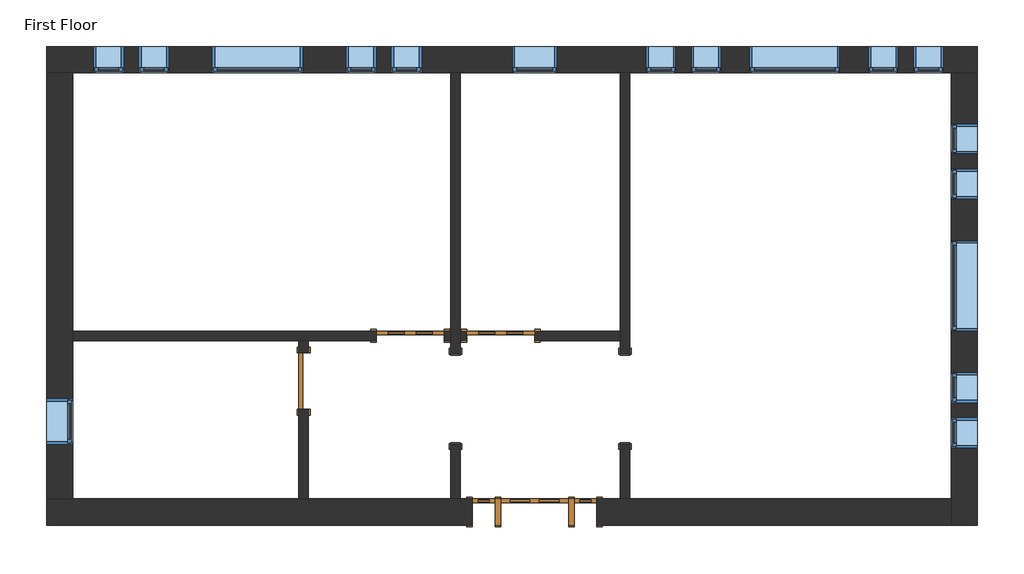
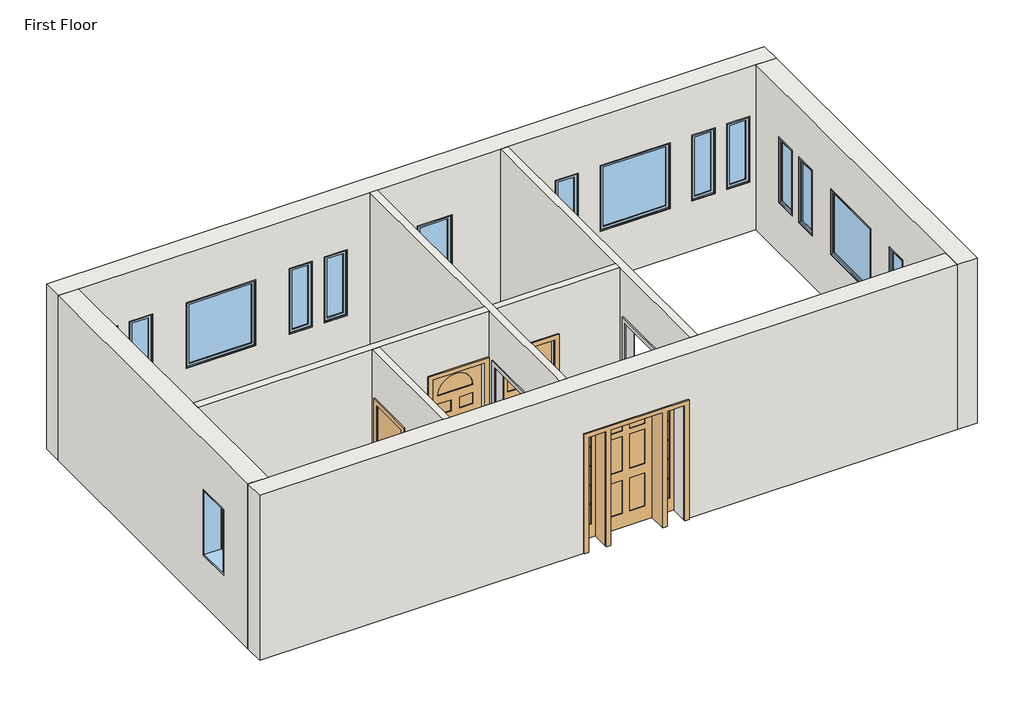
# One storey: 17 windows, 9 walls, 4 doors, 2 proxies.
"""IFC4 building model written with IfcOpenShell, lengths in millimetres."""

from ifc_helpers import new_model, si_unit, frame, origin, place, context, project, spatial, polyline, outline, extrude, faceted_brep, transform, mapped, element, save
from components import proxy_f44482cc, door_829da954, door_2e3b4da2, door_4d6c7550, door_dba5aa2e, window_da97879f, window_d61ef850, window_60baf983, window_6eb97611

model = new_model("IFC4")

# Units and contexts
model_context = context("Model", 3, world=origin())
ifc_project = project(units=[si_unit("LENGTHUNIT", "METRE", prefix="MILLI")], contexts=[model_context])

# Site, building, storey
site = spatial("IfcSite", under=ifc_project)
building = spatial("IfcBuilding", under=site)
storey = spatial("IfcBuildingStorey", under=building, Name="First Floor", Elevation=0.0)

# Proxies
placement = place(None, origin())
proxy_shape = proxy_f44482cc(model_context)
element("IfcBuildingElementProxy", 1, Name="Opening-Cased : 48\" x 84\"", ObjectType="Opening-Cased : 48\" x 84\"", at=placement, inside=storey, context=model_context, shape_type="MappedRepresentation", body=[
    mapped(proxy_shape, transform((-3773.4589563, 5882.4203434, 0.0), x_axis=(0.0, 1.0, 0.0), y_axis=(-1.0, 0.0, 0.0), z_axis=(0.0, 0.0, 1.0))),
])
element("IfcBuildingElementProxy", 2, Name="Opening-Cased : 48\" x 84\"", ObjectType="Opening-Cased : 48\" x 84\"", at=placement, inside=storey, context=model_context, shape_type="MappedRepresentation", body=[
    mapped(proxy_shape, transform((-6059.4589563, 5866.04303, 0.0), x_axis=(0.0, -1.0, 0.0), y_axis=(1.0, 0.0, 0.0), z_axis=(0.0, 0.0, 1.0))),
])

# Doors
door_shape = door_829da954(model_context)
element("IfcDoor", 3, ObjectType="Single-Decorative 2 : 36\" x 84\"", at=placement, inside=storey, context=model_context, shape_type="MappedRepresentation", body=[
    mapped(door_shape, transform((-5449.8589563, 6723.5441867, 0.0), x_axis=(-1.0, 0.0, 0.0), y_axis=(0.0, -1.0, 0.0), z_axis=(0.0, 0.0, 1.0))),
])
door_2_shape = door_2e3b4da2(model_context)
element("IfcDoor", 4, ObjectType="Single-Decorative 2 : 36\" x 84\"", at=placement, inside=storey, context=model_context, shape_type="MappedRepresentation", body=[
    mapped(door_2_shape, transform((-6669.0589563, 6723.5441867, 0.0), x_axis=(1.0, 0.0, 0.0), y_axis=(0.0, 1.0, 0.0), z_axis=(0.0, 0.0, 1.0))),
])
door_3_shape = door_4d6c7550(model_context)
element("IfcDoor", 5, ObjectType="Single-Flush : 30\" x 84\"", at=placement, inside=storey, context=model_context, shape_type="MappedRepresentation", body=[
    mapped(door_3_shape, transform((-8105.7464563, 6113.9441867, 0.0), x_axis=(0.0, 1.0, 0.0), y_axis=(-1.0, 0.0, 0.0), z_axis=(0.0, 0.0, 1.0))),
])
door_4_shape = door_dba5aa2e(model_context)
element("IfcDoor", 6, ObjectType="Single-Raised Panel with Sidelights : 36\" x 84\"", at=placement, inside=storey, context=model_context, shape_type="MappedRepresentation", body=[
    mapped(door_4_shape, transform((-4992.6589563, 4350.2316867, 0.0), x_axis=(-1.0, 0.0, 0.0), y_axis=(0.0, -1.0, 0.0), z_axis=(0.0, 0.0, 1.0))),
])

# Walls
element("IfcWall", 7, ObjectType="Exterior - Brick on Mtl. Stud", at=placement, inside=storey, context=model_context, shape_type="Brep", body=[
    faceted_brep([(974.7535437, 10270.0191867, 0.0), (622.3285437, 10270.0191867, 0.0), (-3709.9589563, 10270.0191867, 0.0), (-3836.9589563, 10270.0191867, 0.0), (-5995.9589563, 10270.0191867, 0.0), (-6122.9589563, 10270.0191867, 0.0), (-11217.2464563, 10270.0191867, 0.0), (-11569.6714563, 10270.0191867, 0.0), (-11569.6714563, 10622.4441867, 0.0), (974.7535437, 10622.4441867, 0.0), (-11569.6714563, 10270.0191867, 3048.0), (-11217.2464563, 10270.0191867, 3048.0), (-6122.9589563, 10270.0191867, 3048.0), (-5995.9589563, 10270.0191867, 3048.0), (-3836.9589563, 10270.0191867, 3048.0), (-3709.9589563, 10270.0191867, 3048.0), (622.3285437, 10270.0191867, 3048.0), (974.7535437, 10270.0191867, 3048.0), (974.7535437, 10622.4441867, 3048.0), (-11569.6714563, 10622.4441867, 3048.0), (-90.4589563, 10270.0191867, 2133.6), (-90.4589563, 10270.0191867, 914.4), (-496.8589563, 10270.0191867, 914.4), (-496.8589563, 10270.0191867, 2133.6), (519.1410437, 10270.0191867, 2133.6), (519.1410437, 10270.0191867, 914.4), (112.7410437, 10270.0191867, 914.4), (112.7410437, 10270.0191867, 2133.6), (-2884.4589563, 10270.0191867, 2133.6), (-2478.0589563, 10270.0191867, 2133.6), (-2478.0589563, 10270.0191867, 914.4), (-2884.4589563, 10270.0191867, 914.4), (-3494.0589563, 10270.0191867, 2133.6), (-3087.6589563, 10270.0191867, 2133.6), (-3087.6589563, 10270.0191867, 914.4), (-3494.0589563, 10270.0191867, 914.4), (-7126.2589563, 10270.0191867, 2133.6), (-7126.2589563, 10270.0191867, 914.4), (-7532.6589563, 10270.0191867, 914.4), (-7532.6589563, 10270.0191867, 2133.6), (-6516.6589563, 10270.0191867, 2133.6), (-6516.6589563, 10270.0191867, 914.4), (-6923.0589563, 10270.0191867, 914.4), (-6923.0589563, 10270.0191867, 2133.6), (-10326.6589563, 10270.0191867, 2133.6), (-9920.2589563, 10270.0191867, 2133.6), (-9920.2589563, 10270.0191867, 914.4), (-10326.6589563, 10270.0191867, 914.4), (-10936.2589563, 10270.0191867, 2133.6), (-10529.8589563, 10270.0191867, 2133.6), (-10529.8589563, 10270.0191867, 914.4), (-10936.2589563, 10270.0191867, 914.4), (-2097.0589563, 10270.0191867, 2133.6), (-877.8589563, 10270.0191867, 2133.6), (-877.8589563, 10270.0191867, 914.4), (-2097.0589563, 10270.0191867, 914.4), (-9336.0589563, 10270.0191867, 2133.6), (-8116.8589563, 10270.0191867, 2133.6), (-8116.8589563, 10270.0191867, 914.4), (-9336.0589563, 10270.0191867, 914.4), (-5297.4589563, 10270.0191867, 2133.6), (-4687.8589563, 10270.0191867, 2133.6), (-4687.8589563, 10270.0191867, 914.4), (-5297.4589563, 10270.0191867, 914.4), (-90.4589563, 10622.4441867, 2133.6), (-496.8589563, 10622.4441867, 2133.6), (-496.8589563, 10622.4441867, 914.4), (-90.4589563, 10622.4441867, 914.4), (519.1410437, 10622.4441867, 2133.6), (112.7410437, 10622.4441867, 2133.6), (112.7410437, 10622.4441867, 914.4), (519.1410437, 10622.4441867, 914.4), (-2884.4589563, 10622.4441867, 2133.6), (-2884.4589563, 10622.4441867, 914.4), (-2478.0589563, 10622.4441867, 914.4), (-2478.0589563, 10622.4441867, 2133.6), (-3494.0589563, 10622.4441867, 2133.6), (-3494.0589563, 10622.4441867, 914.4), (-3087.6589563, 10622.4441867, 914.4), (-3087.6589563, 10622.4441867, 2133.6), (-7126.2589563, 10622.4441867, 2133.6), (-7532.6589563, 10622.4441867, 2133.6), (-7532.6589563, 10622.4441867, 914.4), (-7126.2589563, 10622.4441867, 914.4), (-6516.6589563, 10622.4441867, 2133.6), (-6923.0589563, 10622.4441867, 2133.6), (-6923.0589563, 10622.4441867, 914.4), (-6516.6589563, 10622.4441867, 914.4), (-10326.6589563, 10622.4441867, 2133.6), (-10326.6589563, 10622.4441867, 914.4), (-9920.2589563, 10622.4441867, 914.4), (-9920.2589563, 10622.4441867, 2133.6), (-10936.2589563, 10622.4441867, 2133.6), (-10936.2589563, 10622.4441867, 914.4), (-10529.8589563, 10622.4441867, 914.4), (-10529.8589563, 10622.4441867, 2133.6), (-2097.0589563, 10622.4441867, 2133.6), (-2097.0589563, 10622.4441867, 914.4), (-877.8589563, 10622.4441867, 914.4), (-877.8589563, 10622.4441867, 2133.6), (-9336.0589563, 10622.4441867, 2133.6), (-9336.0589563, 10622.4441867, 914.4), (-8116.8589563, 10622.4441867, 914.4), (-8116.8589563, 10622.4441867, 2133.6), (-5297.4589563, 10622.4441867, 2133.6), (-5297.4589563, 10622.4441867, 914.4), (-4687.8589563, 10622.4441867, 914.4), (-4687.8589563, 10622.4441867, 2133.6)], [[[0, 1, 2, 3, 4, 5, 6, 7, 8, 9]], [[10, 11, 12, 13, 14, 15, 16, 17, 18, 19]], [[7, 6, 5, 4, 3, 2, 1, 0, 17, 16, 15, 14, 13, 12, 11, 10], [20, 21, 22, 23], [24, 25, 26, 27], [28, 29, 30, 31], [32, 33, 34, 35], [36, 37, 38, 39], [40, 41, 42, 43], [44, 45, 46, 47], [48, 49, 50, 51], [52, 53, 54, 55], [56, 57, 58, 59], [60, 61, 62, 63]], [[8, 19, 18, 9], [64, 65, 66, 67], [68, 69, 70, 71], [72, 73, 74, 75], [76, 77, 78, 79], [80, 81, 82, 83], [84, 85, 86, 87], [88, 89, 90, 91], [92, 93, 94, 95], [96, 97, 98, 99], [100, 101, 102, 103], [104, 105, 106, 107]], [[17, 0, 9, 18]], [[7, 10, 19, 8]], [[21, 20, 64, 67]], [[22, 21, 67, 66]], [[23, 22, 66, 65]], [[20, 23, 65, 64]], [[25, 24, 68, 71]], [[26, 25, 71, 70]], [[27, 26, 70, 69]], [[24, 27, 69, 68]], [[73, 72, 28, 31]], [[74, 73, 31, 30]], [[75, 74, 30, 29]], [[72, 75, 29, 28]], [[77, 76, 32, 35]], [[78, 77, 35, 34]], [[79, 78, 34, 33]], [[76, 79, 33, 32]], [[37, 36, 80, 83]], [[38, 37, 83, 82]], [[39, 38, 82, 81]], [[36, 39, 81, 80]], [[41, 40, 84, 87]], [[42, 41, 87, 86]], [[43, 42, 86, 85]], [[40, 43, 85, 84]], [[89, 88, 44, 47]], [[90, 89, 47, 46]], [[91, 90, 46, 45]], [[88, 91, 45, 44]], [[93, 92, 48, 51]], [[94, 93, 51, 50]], [[95, 94, 50, 49]], [[92, 95, 49, 48]], [[97, 96, 52, 55]], [[98, 97, 55, 54]], [[99, 98, 54, 53]], [[96, 99, 53, 52]], [[101, 100, 56, 59]], [[102, 101, 59, 58]], [[103, 102, 58, 57]], [[100, 103, 57, 56]], [[105, 104, 60, 63]], [[106, 105, 63, 62]], [[107, 106, 62, 61]], [[104, 107, 61, 60]]]),
])
element("IfcWall", 8, ObjectType="Exterior - Brick on Mtl. Stud", at=placement, inside=storey, context=model_context, shape_type="Brep", body=[
    faceted_brep([(622.3285437, 4174.0191867, 0.0), (622.3285437, 4526.4441867, 0.0), (622.3285437, 10270.0191867, 0.0), (974.7535437, 10270.0191867, 0.0), (974.7535437, 4174.0191867, 0.0), (622.3285437, 10270.0191867, 3048.0), (622.3285437, 4526.4441867, 3048.0), (622.3285437, 4174.0191867, 3048.0), (974.7535437, 4174.0191867, 3048.0), (974.7535437, 10270.0191867, 3048.0), (622.3285437, 5823.4316867, 2133.6), (622.3285437, 5823.4316867, 914.4), (622.3285437, 6229.8316867, 914.4), (622.3285437, 6229.8316867, 2133.6), (622.3285437, 5213.8316867, 2133.6), (622.3285437, 5213.8316867, 914.4), (622.3285437, 5620.2316867, 914.4), (622.3285437, 5620.2316867, 2133.6), (622.3285437, 8973.0316867, 2133.6), (622.3285437, 8566.6316867, 2133.6), (622.3285437, 8566.6316867, 914.4), (622.3285437, 8973.0316867, 914.4), (622.3285437, 9582.6316867, 2133.6), (622.3285437, 9176.2316867, 2133.6), (622.3285437, 9176.2316867, 914.4), (622.3285437, 9582.6316867, 914.4), (622.3285437, 8007.8316867, 2133.6), (622.3285437, 6788.6316867, 2133.6), (622.3285437, 6788.6316867, 914.4), (622.3285437, 8007.8316867, 914.4), (974.7535437, 5823.4316867, 2133.6), (974.7535437, 6229.8316867, 2133.6), (974.7535437, 6229.8316867, 914.4), (974.7535437, 5823.4316867, 914.4), (974.7535437, 5213.8316867, 2133.6), (974.7535437, 5620.2316867, 2133.6), (974.7535437, 5620.2316867, 914.4), (974.7535437, 5213.8316867, 914.4), (974.7535437, 8973.0316867, 2133.6), (974.7535437, 8973.0316867, 914.4), (974.7535437, 8566.6316867, 914.4), (974.7535437, 8566.6316867, 2133.6), (974.7535437, 9582.6316867, 2133.6), (974.7535437, 9582.6316867, 914.4), (974.7535437, 9176.2316867, 914.4), (974.7535437, 9176.2316867, 2133.6), (974.7535437, 8007.8316867, 2133.6), (974.7535437, 8007.8316867, 914.4), (974.7535437, 6788.6316867, 914.4), (974.7535437, 6788.6316867, 2133.6)], [[[0, 1, 2, 3, 4]], [[5, 6, 7, 8, 9]], [[2, 1, 0, 7, 6, 5], [10, 11, 12, 13], [14, 15, 16, 17], [18, 19, 20, 21], [22, 23, 24, 25], [26, 27, 28, 29]], [[3, 9, 8, 4], [30, 31, 32, 33], [34, 35, 36, 37], [38, 39, 40, 41], [42, 43, 44, 45], [46, 47, 48, 49]], [[2, 5, 9, 3]], [[7, 0, 4, 8]], [[11, 10, 30, 33]], [[12, 11, 33, 32]], [[13, 12, 32, 31]], [[10, 13, 31, 30]], [[15, 14, 34, 37]], [[16, 15, 37, 36]], [[17, 16, 36, 35]], [[14, 17, 35, 34]], [[39, 38, 18, 21]], [[40, 39, 21, 20]], [[41, 40, 20, 19]], [[38, 41, 19, 18]], [[43, 42, 22, 25]], [[44, 43, 25, 24]], [[45, 44, 24, 23]], [[42, 45, 23, 22]], [[47, 46, 26, 29]], [[48, 47, 29, 28]], [[49, 48, 28, 27]], [[46, 49, 27, 26]]]),
])
element("IfcWall", 9, ObjectType="Exterior - Brick on Mtl. Stud", at=placement, inside=storey, context=model_context, shape_type="Brep", body=[
    faceted_brep([(-11569.6714563, 4526.4441867, 0.0), (-11217.2464563, 4526.4441867, 0.0), (-8169.2464563, 4526.4441867, 0.0), (-8042.2464563, 4526.4441867, 0.0), (-6122.9589563, 4526.4441867, 0.0), (-5995.9589563, 4526.4441867, 0.0), (-5830.8589563, 4526.4441867, 0.0), (-5830.8589563, 4174.0191867, 0.0), (-11569.6714563, 4174.0191867, 0.0), (-4154.4589563, 4526.4441867, 0.0), (-3836.9589563, 4526.4441867, 0.0), (-3709.9589563, 4526.4441867, 0.0), (622.3285437, 4526.4441867, 0.0), (622.3285437, 4174.0191867, 0.0), (-4154.4589563, 4174.0191867, 0.0), (622.3285437, 4526.4441867, 3048.0), (-3709.9589563, 4526.4441867, 3048.0), (-3836.9589563, 4526.4441867, 3048.0), (-5995.9589563, 4526.4441867, 3048.0), (-6122.9589563, 4526.4441867, 3048.0), (-8042.2464563, 4526.4441867, 3048.0), (-8169.2464563, 4526.4441867, 3048.0), (-11217.2464563, 4526.4441867, 3048.0), (-11569.6714563, 4526.4441867, 3048.0), (-11569.6714563, 4174.0191867, 3048.0), (622.3285437, 4174.0191867, 3048.0), (-5830.8589563, 4526.4441867, 2133.6), (-4154.4589563, 4526.4441867, 2133.6), (-5830.8589563, 4174.0191867, 2133.6), (-4154.4589563, 4174.0191867, 2133.6)], [[[0, 1, 2, 3, 4, 5, 6, 7, 8]], [[9, 10, 11, 12, 13, 14]], [[15, 16, 17, 18, 19, 20, 21, 22, 23, 24, 25]], [[26, 6, 5, 4, 3, 2, 1, 0, 23, 22, 21, 20, 19, 18, 17, 16, 15, 12, 11, 10, 9, 27]], [[8, 7, 28, 29, 14, 13, 25, 24]], [[12, 15, 25, 13]], [[23, 0, 8, 24]], [[28, 7, 6, 26]], [[29, 28, 26, 27]], [[14, 29, 27, 9]]]),
])
element("IfcWall", 10, ObjectType="Exterior - Brick on Mtl. Stud", at=placement, inside=storey, context=model_context, shape_type="Brep", body=[
    faceted_brep([(-11217.2464563, 10270.0191867, 0.0), (-11217.2464563, 6787.0441867, 0.0), (-11217.2464563, 6660.0441867, 0.0), (-11217.2464563, 4526.4441867, 0.0), (-11569.6714563, 4526.4441867, 0.0), (-11569.6714563, 10270.0191867, 0.0), (-11217.2464563, 4526.4441867, 3048.0), (-11217.2464563, 6660.0441867, 3048.0), (-11217.2464563, 6787.0441867, 3048.0), (-11217.2464563, 10270.0191867, 3048.0), (-11569.6714563, 10270.0191867, 3048.0), (-11569.6714563, 4526.4441867, 3048.0), (-11217.2464563, 5264.6316867, 2133.6), (-11217.2464563, 5874.2316867, 2133.6), (-11217.2464563, 5874.2316867, 914.4), (-11217.2464563, 5264.6316867, 914.4), (-11569.6714563, 5264.6316867, 2133.6), (-11569.6714563, 5264.6316867, 914.4), (-11569.6714563, 5874.2316867, 914.4), (-11569.6714563, 5874.2316867, 2133.6)], [[[0, 1, 2, 3, 4, 5]], [[6, 7, 8, 9, 10, 11]], [[3, 2, 1, 0, 9, 8, 7, 6], [12, 13, 14, 15]], [[4, 11, 10, 5], [16, 17, 18, 19]], [[3, 6, 11, 4]], [[9, 0, 5, 10]], [[17, 16, 12, 15]], [[18, 17, 15, 14]], [[19, 18, 14, 13]], [[16, 19, 13, 12]]]),
])
element("IfcWall", 11, ObjectType="Interior - 5\" Partition (2-hr)", at=placement, inside=storey, context=model_context, shape_type="Brep", body=[
    faceted_brep([(-3709.9589563, 10270.0191867, 0.0), (-3709.9589563, 6483.8316867, 0.0), (-3836.9589563, 6483.8316867, 0.0), (-3836.9589563, 6660.0441867, 0.0), (-3836.9589563, 6787.0441867, 0.0), (-3836.9589563, 10270.0191867, 0.0), (-3709.9589563, 5264.6316867, 0.0), (-3709.9589563, 4526.4441867, 0.0), (-3836.9589563, 4526.4441867, 0.0), (-3836.9589563, 5264.6316867, 0.0), (-3836.9589563, 10270.0191867, 3048.0), (-3836.9589563, 6787.0441867, 3048.0), (-3836.9589563, 6660.0441867, 3048.0), (-3836.9589563, 4526.4441867, 3048.0), (-3709.9589563, 4526.4441867, 3048.0), (-3709.9589563, 10270.0191867, 3048.0), (-3836.9589563, 6483.8316867, 2133.6), (-3836.9589563, 5264.6316867, 2133.6), (-3709.9589563, 6483.8316867, 2133.6), (-3709.9589563, 5264.6316867, 2133.6)], [[[0, 1, 2, 3, 4, 5]], [[6, 7, 8, 9]], [[10, 11, 12, 13, 14, 15]], [[5, 4, 3, 2, 16, 17, 9, 8, 13, 12, 11, 10]], [[18, 1, 0, 15, 14, 7, 6, 19]], [[5, 10, 15, 0]], [[13, 8, 7, 14]], [[9, 17, 19, 6]], [[16, 2, 1, 18]], [[17, 16, 18, 19]]]),
])
element("IfcWall", 12, ObjectType="Interior - 5\" Partition (2-hr)", at=placement, inside=storey, context=model_context, shape_type="Brep", body=[
    faceted_brep([(-6122.9589563, 4526.4441867, 0.0), (-6122.9589563, 5264.6316867, 0.0), (-5995.9589563, 5264.6316867, 0.0), (-5995.9589563, 4526.4441867, 0.0), (-6122.9589563, 6483.8316867, 0.0), (-6122.9589563, 6660.0441867, 0.0), (-6122.9589563, 6787.0441867, 0.0), (-6122.9589563, 10270.0191867, 0.0), (-5995.9589563, 10270.0191867, 0.0), (-5995.9589563, 6787.0441867, 0.0), (-5995.9589563, 6660.0441867, 0.0), (-5995.9589563, 6483.8316867, 0.0), (-6122.9589563, 10270.0191867, 3048.0), (-6122.9589563, 6787.0441867, 3048.0), (-6122.9589563, 6660.0441867, 3048.0), (-6122.9589563, 4526.4441867, 3048.0), (-5995.9589563, 4526.4441867, 3048.0), (-5995.9589563, 6660.0441867, 3048.0), (-5995.9589563, 6787.0441867, 3048.0), (-5995.9589563, 10270.0191867, 3048.0), (-6122.9589563, 5264.6316867, 2133.6), (-6122.9589563, 6483.8316867, 2133.6), (-5995.9589563, 5264.6316867, 2133.6), (-5995.9589563, 6483.8316867, 2133.6)], [[[0, 1, 2, 3]], [[4, 5, 6, 7, 8, 9, 10, 11]], [[12, 13, 14, 15, 16, 17, 18, 19]], [[20, 1, 0, 15, 14, 13, 12, 7, 6, 5, 4, 21]], [[3, 2, 22, 23, 11, 10, 9, 8, 19, 18, 17, 16]], [[7, 12, 19, 8]], [[15, 0, 3, 16]], [[11, 23, 21, 4]], [[22, 2, 1, 20]], [[23, 22, 20, 21]]]),
])
element("IfcWall", 13, ObjectType="Interior - 5\" Partition (2-hr)", at=placement, inside=storey, context=model_context, shape_type="Brep", body=[
    faceted_brep([(-6122.9589563, 6660.0441867, 0.0), (-6211.8589563, 6660.0441867, 0.0), (-6211.8589563, 6787.0441867, 0.0), (-6122.9589563, 6787.0441867, 0.0), (-7126.2589563, 6660.0441867, 0.0), (-8042.2464563, 6660.0441867, 0.0), (-8169.2464563, 6660.0441867, 0.0), (-11217.2464563, 6660.0441867, 0.0), (-11217.2464563, 6787.0441867, 0.0), (-7126.2589563, 6787.0441867, 0.0), (-11217.2464563, 6660.0441867, 3048.0), (-8169.2464563, 6660.0441867, 3048.0), (-8042.2464563, 6660.0441867, 3048.0), (-6122.9589563, 6660.0441867, 3048.0), (-6122.9589563, 6787.0441867, 3048.0), (-11217.2464563, 6787.0441867, 3048.0), (-6211.8589563, 6660.0441867, 2133.6), (-7126.2589563, 6660.0441867, 2133.6), (-6211.8589563, 6787.0441867, 2133.6), (-7126.2589563, 6787.0441867, 2133.6)], [[[0, 1, 2, 3]], [[4, 5, 6, 7, 8, 9]], [[10, 11, 12, 13, 14, 15]], [[16, 1, 0, 13, 12, 11, 10, 7, 6, 5, 4, 17]], [[3, 2, 18, 19, 9, 8, 15, 14]], [[7, 10, 15, 8]], [[13, 0, 3, 14]], [[18, 2, 1, 16]], [[19, 18, 16, 17]], [[9, 19, 17, 4]]]),
])
element("IfcWall", 14, ObjectType="Interior - 5\" Partition (2-hr)", at=placement, inside=storey, context=model_context, shape_type="SweptSolid", body=[
    extrude(outline(polyline([(6660.0441867, 0.0), (6494.9441867, 0.0), (6494.9441867, 2133.6), (5732.9441867, 2133.6), (5732.9441867, 0.0), (4526.4441867, 0.0), (4526.4441867, 3048.0), (6660.0441867, 3048.0), (6660.0441867, 0.0)])), frame((-8169.2464563, 0.0, 0.0), z_axis=(1.0, 0.0, 0.0), x_axis=(0.0, 1.0, 0.0)), (0.0, 0.0, 1.0), 127.0),
])
element("IfcWall", 15, ObjectType="Interior - 5\" Partition (2-hr)", at=placement, inside=storey, context=model_context, shape_type="SweptSolid", body=[
    extrude(outline(polyline([(0.0, -5995.9589563), (0.0, -5907.0589563), (2133.6, -5907.0589563), (2133.6, -4992.6589563), (0.0, -4992.6589563), (0.0, -3836.9589563), (3048.0, -3836.9589563), (3048.0, -5995.9589563), (0.0, -5995.9589563)])), frame((0.0, 6660.0441867, 0.0), z_axis=(0.0, 1.0, 0.0), x_axis=(0.0, 0.0, 1.0)), (0.0, 0.0, 1.0), 127.0),
])

# Windows
window_shape = window_da97879f(model_context)
element("IfcWindow", 16, ObjectType="Fixed : 16\" x 48\"", at=placement, inside=storey, context=model_context, shape_type="MappedRepresentation", body=[
    mapped(window_shape, transform((-10771.1589563, 10446.2316867, 0.0), x_axis=(-1.0, 0.0, 0.0), y_axis=(0.0, -1.0, 0.0), z_axis=(0.0, 0.0, 1.0))),
])
element("IfcWindow", 17, ObjectType="Fixed : 16\" x 48\"", at=placement, inside=storey, context=model_context, shape_type="MappedRepresentation", body=[
    mapped(window_shape, transform((-10161.5589563, 10446.2316867, 0.0), x_axis=(-1.0, 0.0, 0.0), y_axis=(0.0, -1.0, 0.0), z_axis=(0.0, 0.0, 1.0))),
])
element("IfcWindow", 18, ObjectType="Fixed : 16\" x 48\"", at=placement, inside=storey, context=model_context, shape_type="MappedRepresentation", body=[
    mapped(window_shape, transform((-3328.9589563, 10446.2316867, 0.0), x_axis=(-1.0, 0.0, 0.0), y_axis=(0.0, -1.0, 0.0), z_axis=(0.0, 0.0, 1.0))),
])
element("IfcWindow", 19, ObjectType="Fixed : 16\" x 48\"", at=placement, inside=storey, context=model_context, shape_type="MappedRepresentation", body=[
    mapped(window_shape, transform((-2719.3589563, 10446.2316867, 0.0), x_axis=(-1.0, 0.0, 0.0), y_axis=(0.0, -1.0, 0.0), z_axis=(0.0, 0.0, 1.0))),
])
element("IfcWindow", 20, ObjectType="Fixed : 16\" x 48\"", at=placement, inside=storey, context=model_context, shape_type="MappedRepresentation", body=[
    mapped(window_shape, transform((798.5410437, 9417.5316867, 0.0), x_axis=(0.0, 1.0, 0.0), y_axis=(-1.0, 0.0, 0.0), z_axis=(0.0, 0.0, 1.0))),
])
element("IfcWindow", 21, ObjectType="Fixed : 16\" x 48\"", at=placement, inside=storey, context=model_context, shape_type="MappedRepresentation", body=[
    mapped(window_shape, transform((798.5410437, 8807.9316867, 0.0), x_axis=(0.0, 1.0, 0.0), y_axis=(-1.0, 0.0, 0.0), z_axis=(0.0, 0.0, 1.0))),
])
window_2_shape = window_d61ef850(model_context)
element("IfcWindow", 22, ObjectType="Fixed : 16\" x 48\"", at=placement, inside=storey, context=model_context, shape_type="MappedRepresentation", body=[
    mapped(window_2_shape, transform((-6681.7589563, 10446.2316867, 0.0), x_axis=(1.0, 0.0, 0.0), y_axis=(0.0, 1.0, 0.0), z_axis=(0.0, 0.0, 1.0))),
])
element("IfcWindow", 23, ObjectType="Fixed : 16\" x 48\"", at=placement, inside=storey, context=model_context, shape_type="MappedRepresentation", body=[
    mapped(window_2_shape, transform((-7291.3589563, 10446.2316867, 0.0), x_axis=(1.0, 0.0, 0.0), y_axis=(0.0, 1.0, 0.0), z_axis=(0.0, 0.0, 1.0))),
])
element("IfcWindow", 24, ObjectType="Fixed : 16\" x 48\"", at=placement, inside=storey, context=model_context, shape_type="MappedRepresentation", body=[
    mapped(window_2_shape, transform((354.0410437, 10446.2316867, 0.0), x_axis=(1.0, 0.0, 0.0), y_axis=(0.0, 1.0, 0.0), z_axis=(0.0, 0.0, 1.0))),
])
element("IfcWindow", 25, ObjectType="Fixed : 16\" x 48\"", at=placement, inside=storey, context=model_context, shape_type="MappedRepresentation", body=[
    mapped(window_2_shape, transform((-255.5589563, 10446.2316867, 0.0), x_axis=(1.0, 0.0, 0.0), y_axis=(0.0, 1.0, 0.0), z_axis=(0.0, 0.0, 1.0))),
])
element("IfcWindow", 26, ObjectType="Fixed : 16\" x 48\"", at=placement, inside=storey, context=model_context, shape_type="MappedRepresentation", body=[
    mapped(window_2_shape, transform((798.5410437, 5378.9316867, 0.0), x_axis=(0.0, -1.0, 0.0), y_axis=(1.0, 0.0, 0.0), z_axis=(0.0, 0.0, 1.0))),
])
element("IfcWindow", 27, ObjectType="Fixed : 16\" x 48\"", at=placement, inside=storey, context=model_context, shape_type="MappedRepresentation", body=[
    mapped(window_2_shape, transform((798.5410437, 5988.5316867, 0.0), x_axis=(0.0, -1.0, 0.0), y_axis=(1.0, 0.0, 0.0), z_axis=(0.0, 0.0, 1.0))),
])
window_3_shape = window_60baf983(model_context)
element("IfcWindow", 28, ObjectType="Fixed : 24\" x 48\"", at=placement, inside=storey, context=model_context, shape_type="MappedRepresentation", body=[
    mapped(window_3_shape, transform((-5030.7589563, 10446.2316867, 0.0), x_axis=(-1.0, 0.0, 0.0), y_axis=(0.0, -1.0, 0.0), z_axis=(0.0, 0.0, 1.0))),
])
element("IfcWindow", 29, ObjectType="Fixed : 24\" x 48\"", at=placement, inside=storey, context=model_context, shape_type="MappedRepresentation", body=[
    mapped(window_3_shape, transform((-11393.4589563, 5531.3316867, 0.0), x_axis=(0.0, -1.0, 0.0), y_axis=(1.0, 0.0, 0.0), z_axis=(0.0, 0.0, 1.0))),
])
window_4_shape = window_6eb97611(model_context)
element("IfcWindow", 30, ObjectType="Fixed : 48\" x 48\"", at=placement, inside=storey, context=model_context, shape_type="MappedRepresentation", body=[
    mapped(window_4_shape, transform((-8764.5589563, 10446.2316867, 0.0), x_axis=(-1.0, 0.0, 0.0), y_axis=(0.0, -1.0, 0.0), z_axis=(0.0, 0.0, 1.0))),
])
element("IfcWindow", 31, ObjectType="Fixed : 48\" x 48\"", at=placement, inside=storey, context=model_context, shape_type="MappedRepresentation", body=[
    mapped(window_4_shape, transform((-1525.5589563, 10446.2316867, 0.0), x_axis=(-1.0, 0.0, 0.0), y_axis=(0.0, -1.0, 0.0), z_axis=(0.0, 0.0, 1.0))),
])
element("IfcWindow", 32, ObjectType="Fixed : 48\" x 48\"", at=placement, inside=storey, context=model_context, shape_type="MappedRepresentation", body=[
    mapped(window_4_shape, transform((798.5410437, 7436.3316867, 0.0), x_axis=(0.0, 1.0, 0.0), y_axis=(-1.0, 0.0, 0.0), z_axis=(0.0, 0.0, 1.0))),
])

save(model, "model.ifc")
